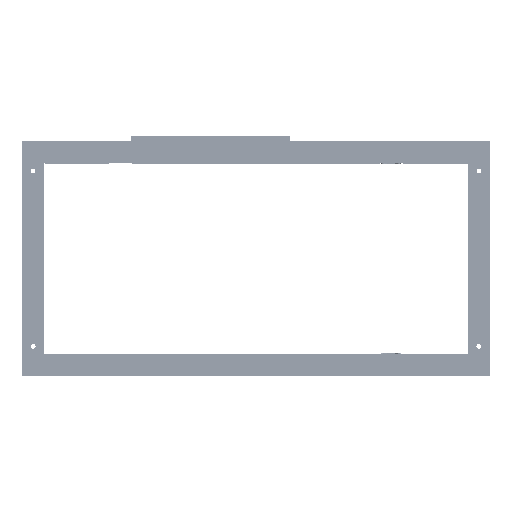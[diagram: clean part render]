
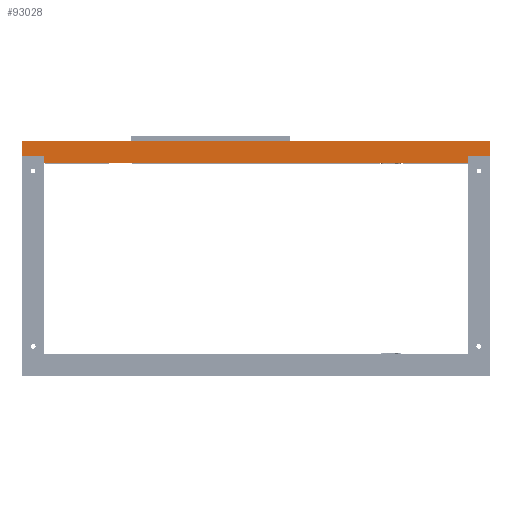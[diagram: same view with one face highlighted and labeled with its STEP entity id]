
A CAD part, front view. The second image highlights one B-rep face of the part: STEP entity #93028.
In plain terms, the highlighted planar face has unit normal (0, -1, 0).
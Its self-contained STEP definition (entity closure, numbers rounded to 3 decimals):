
#91607=DIRECTION('',(0.,0.,-1.));
#91608=VECTOR('',#91607,25.);
#91609=CARTESIAN_POINT('',(400.,0.,37.5));
#91610=LINE('',#91609,#91608);
#92079=DIRECTION('',(0.,0.,1.));
#92080=VECTOR('',#92079,12.5);
#92081=CARTESIAN_POINT('',(-362.5,0.,0.));
#92082=LINE('',#92081,#92080);
#92086=DIRECTION('',(1.,0.,0.));
#92087=VECTOR('',#92086,37.5);
#92088=CARTESIAN_POINT('',(-400.,0.,12.5));
#92089=LINE('',#92088,#92087);
#92093=DIRECTION('',(1.,0.,0.));
#92094=VECTOR('',#92093,800.);
#92095=CARTESIAN_POINT('',(-400.,0.,37.5));
#92096=LINE('',#92095,#92094);
#92100=DIRECTION('',(-1.,0.,0.));
#92101=VECTOR('',#92100,37.5);
#92102=CARTESIAN_POINT('',(400.,0.,12.5));
#92103=LINE('',#92102,#92101);
#92107=DIRECTION('',(0.,0.,1.));
#92108=VECTOR('',#92107,12.5);
#92109=CARTESIAN_POINT('',(362.5,0.,0.));
#92110=LINE('',#92109,#92108);
#92121=DIRECTION('',(1.,0.,0.));
#92122=VECTOR('',#92121,725.);
#92123=CARTESIAN_POINT('',(-362.5,0.,0.));
#92124=LINE('',#92123,#92122);
#92226=DIRECTION('',(0.,0.,-1.));
#92227=VECTOR('',#92226,25.);
#92228=CARTESIAN_POINT('',(-400.,0.,37.5));
#92229=LINE('',#92228,#92227);
#92600=CARTESIAN_POINT('',(400.,0.,37.5));
#92602=VERTEX_POINT('',#92600);
#92619=CARTESIAN_POINT('',(400.,0.,12.5));
#92621=VERTEX_POINT('',#92619);
#92623=CARTESIAN_POINT('',(362.5,0.,12.5));
#92624=VERTEX_POINT('',#92623);
#92625=CARTESIAN_POINT('',(362.5,0.,0.));
#92626=VERTEX_POINT('',#92625);
#92638=CARTESIAN_POINT('',(-400.,0.,37.5));
#92640=VERTEX_POINT('',#92638);
#92657=CARTESIAN_POINT('',(-400.,0.,12.5));
#92659=VERTEX_POINT('',#92657);
#92661=CARTESIAN_POINT('',(-362.5,0.,12.5));
#92662=VERTEX_POINT('',#92661);
#92663=CARTESIAN_POINT('',(-362.5,0.,0.));
#92664=VERTEX_POINT('',#92663);
#93007=CARTESIAN_POINT('',(0.,0.,37.5));
#93008=DIRECTION('',(0.,-1.,0.));
#93009=DIRECTION('',(0.,0.,-1.));
#93010=AXIS2_PLACEMENT_3D('',#93007,#93008,#93009);
#93011=PLANE('',#93010);
#93013=ORIENTED_EDGE('',*,*,#93012,.F.);
#93015=ORIENTED_EDGE('',*,*,#93014,.T.);
#93017=ORIENTED_EDGE('',*,*,#93016,.F.);
#93019=ORIENTED_EDGE('',*,*,#93018,.F.);
#93020=ORIENTED_EDGE('',*,*,#92926,.T.);
#93021=ORIENTED_EDGE('',*,*,#92794,.T.);
#93023=ORIENTED_EDGE('',*,*,#93022,.T.);
#93025=ORIENTED_EDGE('',*,*,#93024,.F.);
#93026=EDGE_LOOP('',(#93013,#93015,#93017,#93019,#93020,#93021,#93023,#93025));
#93027=FACE_OUTER_BOUND('',#93026,.F.);
#92794=EDGE_CURVE('',#92602,#92621,#91610,.T.);
#92926=EDGE_CURVE('',#92640,#92602,#92096,.T.);
#93012=EDGE_CURVE('',#92664,#92626,#92124,.T.);
#93014=EDGE_CURVE('',#92664,#92662,#92082,.T.);
#93016=EDGE_CURVE('',#92659,#92662,#92089,.T.);
#93018=EDGE_CURVE('',#92640,#92659,#92229,.T.);
#93022=EDGE_CURVE('',#92621,#92624,#92103,.T.);
#93024=EDGE_CURVE('',#92626,#92624,#92110,.T.);
#93028=ADVANCED_FACE('',(#93027),#93011,.T.);
